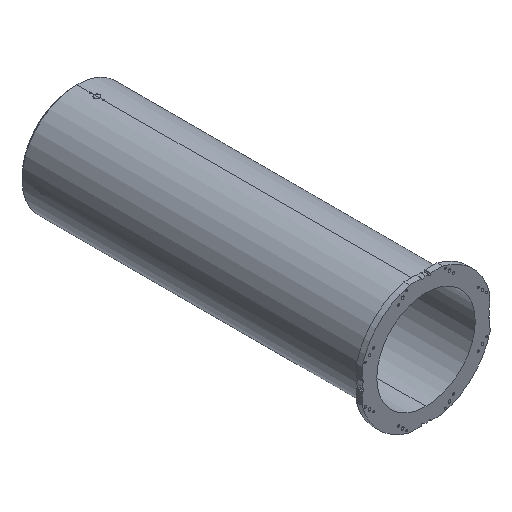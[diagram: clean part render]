
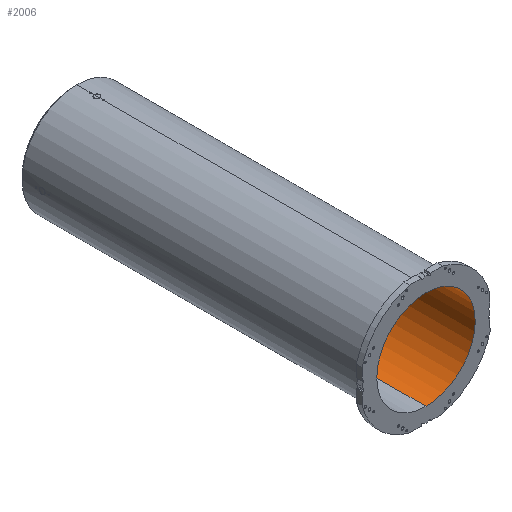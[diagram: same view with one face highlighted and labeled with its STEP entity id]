
A CAD part, isometric view. The second image highlights one B-rep face of the part: STEP entity #2006.
In plain terms, the highlighted cylindrical face has radius 350 mm (diameter 700 mm), a partial arc.
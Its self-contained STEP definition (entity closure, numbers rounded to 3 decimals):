
#175 = DIRECTION ( 'NONE',  ( 0., 1., 0. ) ) ;
#258 = CARTESIAN_POINT ( 'NONE',  ( 0., 0., 0. ) ) ;
#280 = VERTEX_POINT ( 'NONE', #10615 ) ;
#600 = LINE ( 'NONE', #9049, #9896 ) ;
#672 = CARTESIAN_POINT ( 'NONE',  ( 0., 2463., -350. ) ) ;
#841 = VECTOR ( 'NONE', #8471, 1000. ) ;
#862 = EDGE_CURVE ( 'NONE', #913, #280, #10605, .T. ) ;
#913 = VERTEX_POINT ( 'NONE', #5041 ) ;
#1220 = VERTEX_POINT ( 'NONE', #672 ) ;
#1265 = AXIS2_PLACEMENT_3D ( 'NONE', #258, #3815, #7714 ) ;
#2006 = ADVANCED_FACE ( 'NONE', ( #6931 ), #5071, .F. ) ;
#2030 = CARTESIAN_POINT ( 'NONE',  ( 0., 0., 0. ) ) ;
#2144 = ORIENTED_EDGE ( 'NONE', *, *, #11355, .T. ) ;
#3815 = DIRECTION ( 'NONE',  ( 0., 1., 0. ) ) ;
#4118 = ORIENTED_EDGE ( 'NONE', *, *, #4695, .F. ) ;
#4395 = DIRECTION ( 'NONE',  ( 0., 1., 0. ) ) ;
#4625 = CARTESIAN_POINT ( 'NONE',  ( 0., 0., 350. ) ) ;
#4694 = LINE ( 'NONE', #4625, #841 ) ;
#4695 = EDGE_CURVE ( 'NONE', #280, #1220, #600, .T. ) ;
#5041 = CARTESIAN_POINT ( 'NONE',  ( 0., 0., 350. ) ) ;
#5071 = CYLINDRICAL_SURFACE ( 'NONE', #6288, 350. ) ;
#5512 = DIRECTION ( 'NONE',  ( 0., 0., 1. ) ) ;
#6288 = AXIS2_PLACEMENT_3D ( 'NONE', #2030, #175, #8853 ) ;
#6931 = FACE_OUTER_BOUND ( 'NONE', #9311, .T. ) ;
#7714 = DIRECTION ( 'NONE',  ( 0., 0., 1. ) ) ;
#8012 = CARTESIAN_POINT ( 'NONE',  ( 0., 2463., 350. ) ) ;
#8410 = CARTESIAN_POINT ( 'NONE',  ( 0., 2463., 0. ) ) ;
#8471 = DIRECTION ( 'NONE',  ( 0., 1., 0. ) ) ;
#8853 = DIRECTION ( 'NONE',  ( 0., 0., 1. ) ) ;
#8863 = ORIENTED_EDGE ( 'NONE', *, *, #862, .F. ) ;
#9049 = CARTESIAN_POINT ( 'NONE',  ( 0., 0., -350. ) ) ;
#9311 = EDGE_LOOP ( 'NONE', ( #4118, #8863, #9749, #2144 ) ) ;
#9749 = ORIENTED_EDGE ( 'NONE', *, *, #10414, .T. ) ;
#9896 = VECTOR ( 'NONE', #4395, 1000. ) ;
#10178 = AXIS2_PLACEMENT_3D ( 'NONE', #8410, #12196, #5512 ) ;
#10414 = EDGE_CURVE ( 'NONE', #913, #11432, #4694, .T. ) ;
#10605 = CIRCLE ( 'NONE', #1265, 350. ) ;
#10615 = CARTESIAN_POINT ( 'NONE',  ( 0., 0., -350. ) ) ;
#11355 = EDGE_CURVE ( 'NONE', #11432, #1220, #11373, .T. ) ;
#11373 = CIRCLE ( 'NONE', #10178, 350. ) ;
#11432 = VERTEX_POINT ( 'NONE', #8012 ) ;
#12196 = DIRECTION ( 'NONE',  ( 0., 1., 0. ) ) ;
